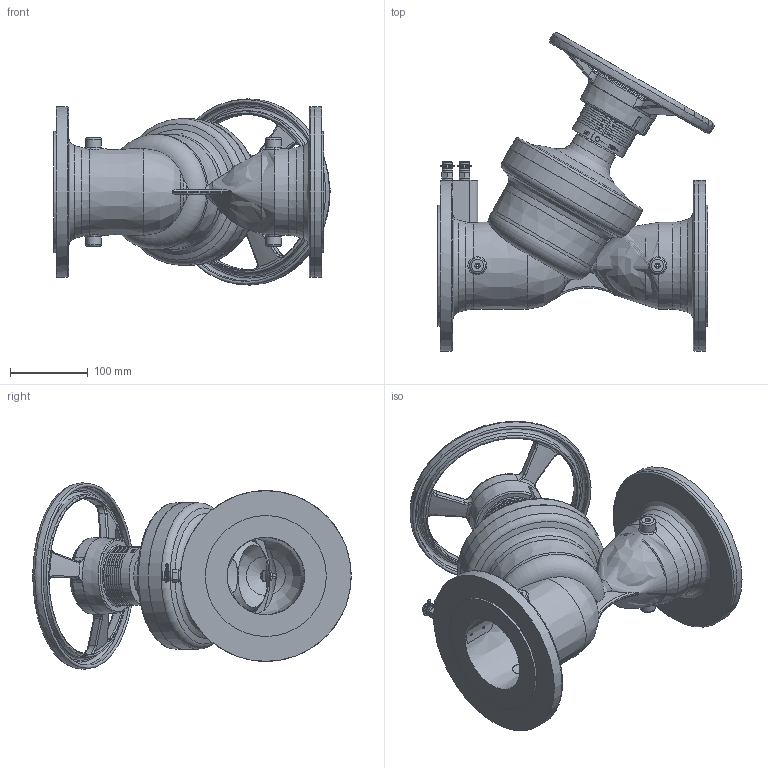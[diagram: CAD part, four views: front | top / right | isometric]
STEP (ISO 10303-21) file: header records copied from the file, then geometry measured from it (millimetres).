
FILE_DESCRIPTION((''),'2;1');
FILE_NAME('P:\Fastrack\53972_CRANE 3D\DM921-941\WORKSPACE\DM921-941\DM941_DN100\DM941_DN100.stp','2011-02-25T15:13:33',('btaylor'),(''),'Autodesk Inventor 2008','Autodesk Inventor 2008','');
FILE_SCHEMA(('AUTOMOTIVE_DESIGN { 1 0 10303 214 1 1 1 1 }'));
Length unit declared in the file: millimetre
Products named in the file (1): DM941_DN100
Bounding box: 355.95 x 410.31 x 239.95 mm (x, y, z)
Volume: 3495234 mm3; surface area: 678230.6 mm2
Topology: 1 solids, 1 shells, 937 faces, 2394 edges, 1521 vertices
Faces by surface type: plane 385, bspline 273, cylinder 172, cone 65, torus 42
Full cylindrical faces by diameter (mm): 6 x2, 7.4 x2, 8 x2, 9.5 x6, 11 x2, 12.7 x2, 13.7 x2, 17.3 x1, 17.4 x1, 20 x6, 24 x1, 24.5 x1, 27.4 x1, 28.4 x1, 30 x1, 32.629 x1, 46 x2, 50 x1, 61 x1, 68 x1, 69 x1, 75 x1, 80 x1, 112 x1, 139.6 x1, 140 x1, 156 x2, 220 x2
Entity records: 75684 total; most frequent: CARTESIAN_POINT 54534, ORIENTED_EDGE 4418, DIRECTION 3451, EDGE_CURVE 2209, VERTEX_POINT 1468, AXIS2_PLACEMENT_3D 1276, EDGE_LOOP 1182, STYLED_ITEM 938
